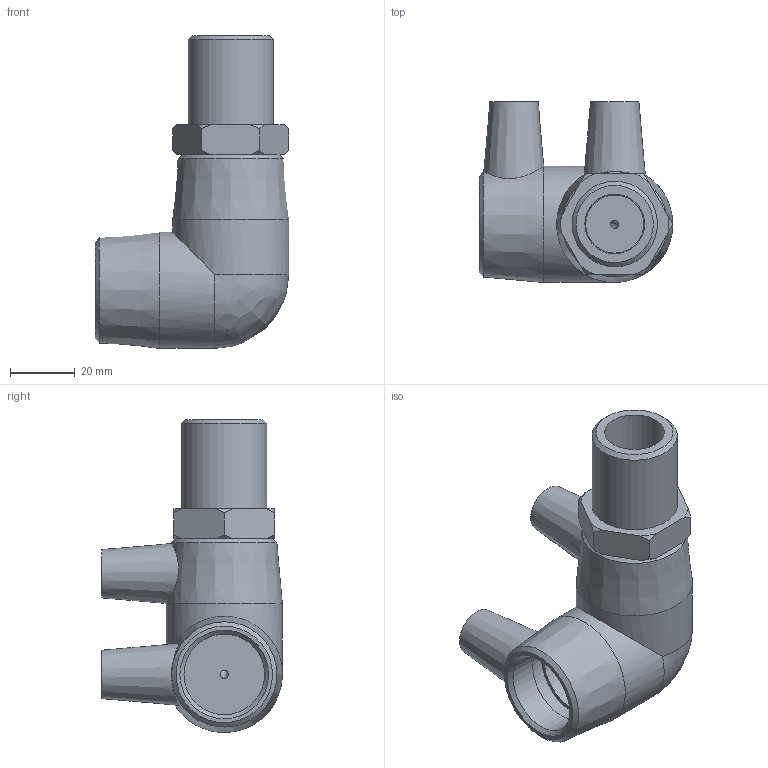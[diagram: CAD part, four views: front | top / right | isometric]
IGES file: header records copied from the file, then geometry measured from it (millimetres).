
Global section: file name: 497504025007.ipt; native system: Autodesk Inventor 2015; preprocessor: unknown; author: KIM; date: 20190421.151314; units: millimetre
Bounding box: 60 x 56 x 96.99 mm (x, y, z)
Volume: 79401.6 mm3; surface area: 28189.3 mm2
Topology: 2 solids, 2 shells, 62 faces, 148 edges, 98 vertices
Faces by surface type: plane 22, cone 19, revolution 14, cylinder 6, bspline 1
Full cylindrical faces by diameter (mm): 4 x2, 25 x1, 26.441 x1, 36 x2
